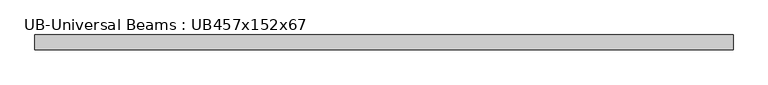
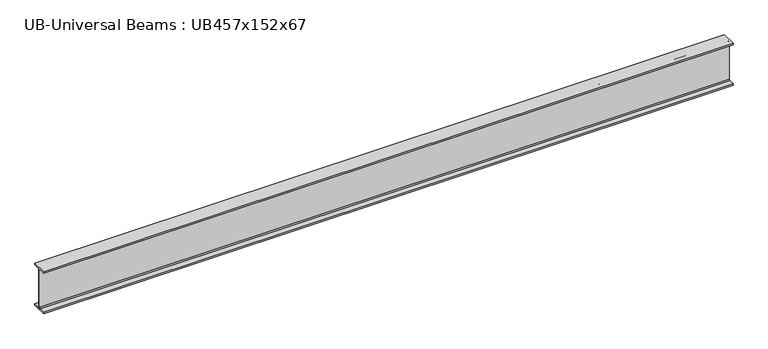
"""IFC4 building model written with IfcOpenShell, lengths in millimetres: beam geometry, UB-Universal Beams : UB457x152x67."""

from ifc_helpers import new_model, si_unit, point, frame, frame_2d, origin, place, context, project, spatial, polyline, circle_curve, trimmed, segment, composite_curve, outline, extrude, source, transform, mapped, element, save


def ub_universal_beams_ub457x152x67_8999ab95(model_context):
    return source(origin(), model_context, "Body", "SweptSolid", [
        extrude(outline(composite_curve([segment(polyline([(76.9, -214.0), (76.9, -229.0), (-76.9, -229.0), (-76.9, -214.0), (-14.7, -214.0)]), True, "CONTINUOUS"), segment(trimmed(circle_curve(frame_2d((-14.7, -203.8)), 10.2), [point((-14.7, -214.0))], [point((-4.5, -203.8))], True, "CARTESIAN"), True, "CONTINUOUS"), segment(polyline([(-4.5, -203.8), (-4.5, 203.8)]), True, "CONTINUOUS"), segment(trimmed(circle_curve(frame_2d((-14.7, 203.8)), 10.2), [point((-4.5, 203.8))], [point((-14.7, 214.0))], True, "CARTESIAN"), True, "CONTINUOUS"), segment(polyline([(-14.7, 214.0), (-76.9, 214.0), (-76.9, 229.0), (76.9, 229.0), (76.9, 214.0), (14.7, 214.0)]), True, "CONTINUOUS"), segment(trimmed(circle_curve(frame_2d((14.7, 203.8)), 10.2), [point((14.7, 214.0))], [point((4.5, 203.8))], True, "CARTESIAN"), True, "CONTINUOUS"), segment(polyline([(4.5, 203.8), (4.5, -203.8)]), True, "CONTINUOUS"), segment(trimmed(circle_curve(frame_2d((14.7, -203.8)), 10.2), [point((4.5, -203.8))], [point((14.7, -214.0))], True, "CARTESIAN"), True, "CONTINUOUS"), segment(polyline([(14.7, -214.0), (76.9, -214.0)]), True, "CONTINUOUS")], self_intersect=False)), frame((-3562.9, 0.0, 0.0), z_axis=(1.0, 0.0, 0.0), x_axis=(0.0, 1.0, 0.0)), (0.0, 0.0, 1.0), 7125.8),
    ])


if __name__ == "__main__":
    model = new_model("IFC4")
    model_context = context("Model", 3, world=origin())
    ifc_project = project(units=[si_unit("LENGTHUNIT", "METRE", prefix="MILLI")], contexts=[model_context])
    site = spatial("IfcSite", under=ifc_project)
    building = spatial("IfcBuilding", under=site)
    placement = place(None, origin())
    ub_universal_beams_ub457x152x67_shape = ub_universal_beams_ub457x152x67_8999ab95(model_context)
    element("IfcBeam", 1, ObjectType="UB-Universal Beams : UB457x152x67", at=placement, inside=building, context=model_context, shape_type="MappedRepresentation", body=[
        mapped(ub_universal_beams_ub457x152x67_shape, transform((0.0, 0.0, 0.0), x_axis=(1.0, 0.0, 0.0), y_axis=(0.0, 1.0, 0.0), z_axis=(0.0, 0.0, 1.0))),
    ])
    save(model, "model.ifc")
